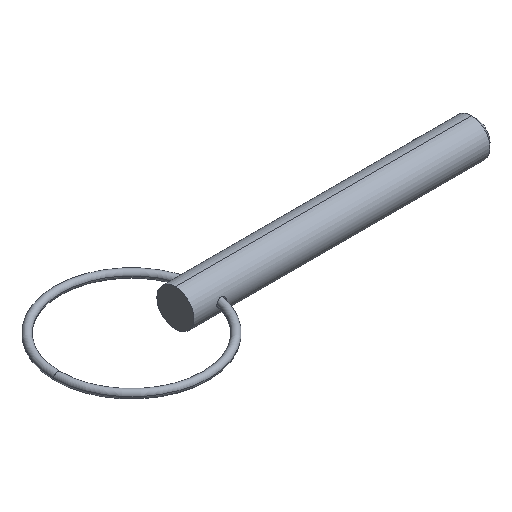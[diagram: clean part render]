
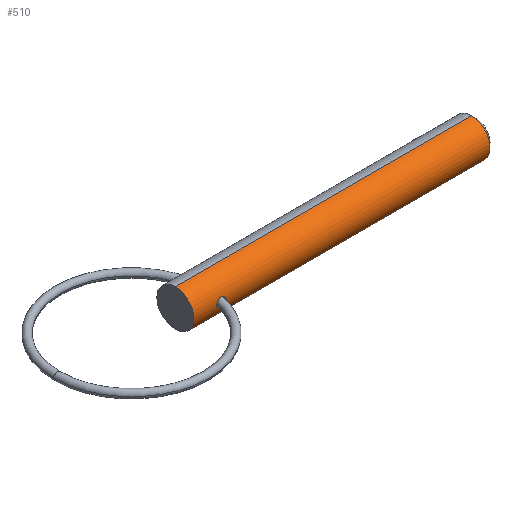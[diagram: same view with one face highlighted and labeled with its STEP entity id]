
A CAD part, isometric view. The second image highlights one B-rep face of the part: STEP entity #510.
In plain terms, the highlighted cylindrical face has radius 3.175 mm (diameter 6.35 mm), a partial arc.
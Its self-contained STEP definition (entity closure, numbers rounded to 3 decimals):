
#4 = CARTESIAN_POINT ( 'NONE',  ( 4.568, -3.075, -0.789 ) ) ;
#9 = EDGE_CURVE ( 'NONE', #605, #354, #171, .T. ) ;
#12 = CARTESIAN_POINT ( 'NONE',  ( 5.59, -3.175, -0.212 ) ) ;
#18 = CARTESIAN_POINT ( 'NONE',  ( 0., 0., -3.175 ) ) ;
#24 = ORIENTED_EDGE ( 'NONE', *, *, #133, .T. ) ;
#33 = AXIS2_PLACEMENT_3D ( 'NONE', #654, #275, #784 ) ;
#34 = FACE_BOUND ( 'NONE', #792, .T. ) ;
#45 = CARTESIAN_POINT ( 'NONE',  ( 5.59, -3.175, 0. ) ) ;
#49 = CARTESIAN_POINT ( 'NONE',  ( 0., 0., 3.175 ) ) ;
#57 = CARTESIAN_POINT ( 'NONE',  ( 3.974, -3.169, -0.212 ) ) ;
#81 = CARTESIAN_POINT ( 'NONE',  ( 0., 0., -3.175 ) ) ;
#95 = ORIENTED_EDGE ( 'NONE', *, *, #240, .T. ) ;
#102 = CARTESIAN_POINT ( 'NONE',  ( 5.189, -3.097, 0.702 ) ) ;
#133 = EDGE_CURVE ( 'NONE', #338, #348, #213, .T. ) ;
#146 = CARTESIAN_POINT ( 'NONE',  ( 3.95, -3.175, 0. ) ) ;
#158 = CARTESIAN_POINT ( 'NONE',  ( 4.063, -3.151, 0.403 ) ) ;
#170 = CARTESIAN_POINT ( 'NONE',  ( 4.567, -3.075, 0.789 ) ) ;
#171 = LINE ( 'NONE', #224, #220 ) ;
#195 = CARTESIAN_POINT ( 'NONE',  ( 5.504, -3.15, -0.423 ) ) ;
#213 = B_SPLINE_CURVE_WITH_KNOTS ( 'NONE', 3,
 ( #699, #12, #195, #589, #516, #380, #332, #4, #452, #311, #507, #57, #716, #774 ),
 .UNSPECIFIED., .F., .F.,
 ( 4, 2, 2, 2, 2, 2, 4 ),
 ( 0.003, 0.003, 0.004, 0.004, 0.005, 0.005, 0.005 ),
 .UNSPECIFIED. ) ;
#220 = VECTOR ( 'NONE', #229, 1000. ) ;
#221 = ORIENTED_EDGE ( 'NONE', *, *, #362, .T. ) ;
#223 = CARTESIAN_POINT ( 'NONE',  ( 4.992, -3.078, 0.778 ) ) ;
#224 = CARTESIAN_POINT ( 'NONE',  ( 0., 0., 3.175 ) ) ;
#229 = DIRECTION ( 'NONE',  ( 1., 0., 0. ) ) ;
#232 = DIRECTION ( 'NONE',  ( 1., 0., 0. ) ) ;
#240 = EDGE_CURVE ( 'NONE', #605, #479, #535, .T. ) ;
#275 = DIRECTION ( 'NONE',  ( 1., 0., 0. ) ) ;
#287 = FACE_OUTER_BOUND ( 'NONE', #616, .T. ) ;
#289 = VERTEX_POINT ( 'NONE', #385 ) ;
#297 = CARTESIAN_POINT ( 'NONE',  ( 4.886, -3.074, 0.796 ) ) ;
#311 = CARTESIAN_POINT ( 'NONE',  ( 4.127, -3.138, -0.49 ) ) ;
#313 = VECTOR ( 'NONE', #410, 1000. ) ;
#320 = DIRECTION ( 'NONE',  ( 0., 0., -1. ) ) ;
#332 = CARTESIAN_POINT ( 'NONE',  ( 4.885, -3.074, -0.796 ) ) ;
#338 = VERTEX_POINT ( 'NONE', #467 ) ;
#348 = VERTEX_POINT ( 'NONE', #146 ) ;
#350 = ORIENTED_EDGE ( 'NONE', *, *, #492, .T. ) ;
#354 = VERTEX_POINT ( 'NONE', #721 ) ;
#362 = EDGE_CURVE ( 'NONE', #479, #289, #791, .T. ) ;
#371 = CARTESIAN_POINT ( 'NONE',  ( 4.127, -3.138, 0.49 ) ) ;
#375 = CARTESIAN_POINT ( 'NONE',  ( 5.59, -3.175, 0.106 ) ) ;
#380 = CARTESIAN_POINT ( 'NONE',  ( 4.992, -3.078, -0.778 ) ) ;
#385 = CARTESIAN_POINT ( 'NONE',  ( 50.816, 0., -3.175 ) ) ;
#387 = EDGE_CURVE ( 'NONE', #354, #289, #771, .T. ) ;
#394 = DIRECTION ( 'NONE',  ( 1., 0., 0. ) ) ;
#410 = DIRECTION ( 'NONE',  ( 1., 0., 0. ) ) ;
#425 = AXIS2_PLACEMENT_3D ( 'NONE', #745, #232, #681 ) ;
#430 = CARTESIAN_POINT ( 'NONE',  ( 5.489, -3.15, 0.407 ) ) ;
#452 = CARTESIAN_POINT ( 'NONE',  ( 4.359, -3.099, -0.704 ) ) ;
#460 = CARTESIAN_POINT ( 'NONE',  ( 0., 0., 0. ) ) ;
#467 = CARTESIAN_POINT ( 'NONE',  ( 5.59, -3.175, 0. ) ) ;
#479 = VERTEX_POINT ( 'NONE', #18 ) ;
#485 = CARTESIAN_POINT ( 'NONE',  ( 5.569, -3.169, 0.212 ) ) ;
#492 = EDGE_CURVE ( 'NONE', #348, #338, #499, .T. ) ;
#499 = B_SPLINE_CURVE_WITH_KNOTS ( 'NONE', 3,
 ( #625, #548, #557, #158, #371, #615, #170, #297, #223, #102, #672, #561, #430, #485, #375, #45 ),
 .UNSPECIFIED., .F., .F.,
 ( 4, 2, 2, 2, 2, 2, 2, 4 ),
 ( 0., 0.001, 0.001, 0.002, 0.002, 0.002, 0.003, 0.003 ),
 .UNSPECIFIED. ) ;
#507 = CARTESIAN_POINT ( 'NONE',  ( 4.064, -3.151, -0.404 ) ) ;
#510 = ADVANCED_FACE ( 'NONE', ( #287, #34 ), #814, .T. ) ;
#516 = CARTESIAN_POINT ( 'NONE',  ( 5.188, -3.097, -0.702 ) ) ;
#535 = CIRCLE ( 'NONE', #809, 3.175 ) ;
#548 = CARTESIAN_POINT ( 'NONE',  ( 3.95, -3.175, 0.106 ) ) ;
#557 = CARTESIAN_POINT ( 'NONE',  ( 3.974, -3.169, 0.212 ) ) ;
#561 = CARTESIAN_POINT ( 'NONE',  ( 5.429, -3.137, 0.497 ) ) ;
#589 = CARTESIAN_POINT ( 'NONE',  ( 5.279, -3.11, -0.644 ) ) ;
#605 = VERTEX_POINT ( 'NONE', #49 ) ;
#615 = CARTESIAN_POINT ( 'NONE',  ( 4.36, -3.099, 0.705 ) ) ;
#616 = EDGE_LOOP ( 'NONE', ( #785, #95, #221, #722 ) ) ;
#625 = CARTESIAN_POINT ( 'NONE',  ( 3.95, -3.175, 0. ) ) ;
#654 = CARTESIAN_POINT ( 'NONE',  ( 50.816, 0., 0. ) ) ;
#672 = CARTESIAN_POINT ( 'NONE',  ( 5.279, -3.11, 0.644 ) ) ;
#681 = DIRECTION ( 'NONE',  ( 0., 0., -1. ) ) ;
#699 = CARTESIAN_POINT ( 'NONE',  ( 5.59, -3.175, 0. ) ) ;
#716 = CARTESIAN_POINT ( 'NONE',  ( 3.95, -3.175, -0.106 ) ) ;
#721 = CARTESIAN_POINT ( 'NONE',  ( 50.816, 0., 3.175 ) ) ;
#722 = ORIENTED_EDGE ( 'NONE', *, *, #387, .F. ) ;
#745 = CARTESIAN_POINT ( 'NONE',  ( 0., 0., 0. ) ) ;
#771 = CIRCLE ( 'NONE', #33, 3.175 ) ;
#774 = CARTESIAN_POINT ( 'NONE',  ( 3.95, -3.175, 0. ) ) ;
#784 = DIRECTION ( 'NONE',  ( 0., 0., -1. ) ) ;
#785 = ORIENTED_EDGE ( 'NONE', *, *, #9, .F. ) ;
#791 = LINE ( 'NONE', #81, #313 ) ;
#792 = EDGE_LOOP ( 'NONE', ( #350, #24 ) ) ;
#809 = AXIS2_PLACEMENT_3D ( 'NONE', #460, #394, #320 ) ;
#814 = CYLINDRICAL_SURFACE ( 'NONE', #425, 3.175 ) ;
